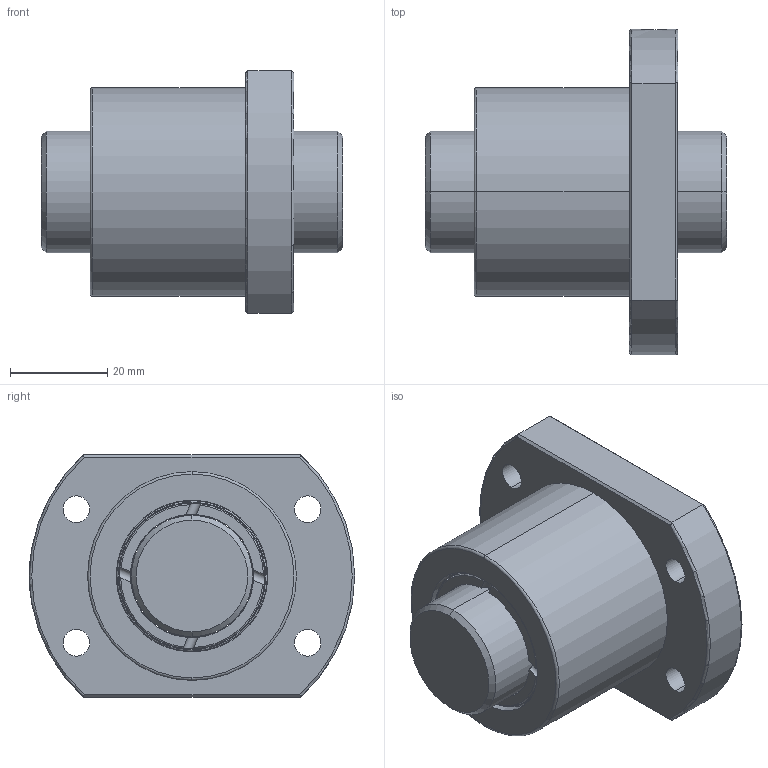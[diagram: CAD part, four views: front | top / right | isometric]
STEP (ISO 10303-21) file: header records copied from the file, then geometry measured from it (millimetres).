
FILE_DESCRIPTION (( 'STEP AP203' ), '1' );
FILE_NAME ('SFBR02505T3D.STEP', '2020-06-17T09:01:27', ( '' ), ( '' ), 'SwSTEP 2.0', 'SolidWorks 2013', '' );
FILE_SCHEMA (( 'CONFIG_CONTROL_DESIGN' ));
Length unit declared in the file: millimetre
Products named in the file (1): SFBR02505T3D
Bounding box: 62 x 67 x 50 mm (x, y, z)
Volume: 82476.5 mm3; surface area: 23732.7 mm2
Topology: 2 solids, 2 shells, 106 faces, 270 edges, 172 vertices
Faces by surface type: cylinder 50, torus 26, plane 26, cone 4
Entity records: 4139 total; most frequent: CARTESIAN_POINT 1473, DIRECTION 558, ORIENTED_EDGE 540, EDGE_CURVE 270, AXIS2_PLACEMENT_3D 245, VERTEX_POINT 172, CIRCLE 138, EDGE_LOOP 124
